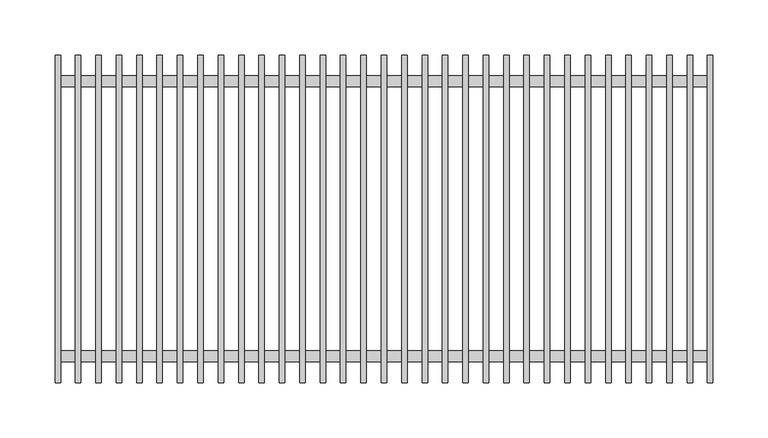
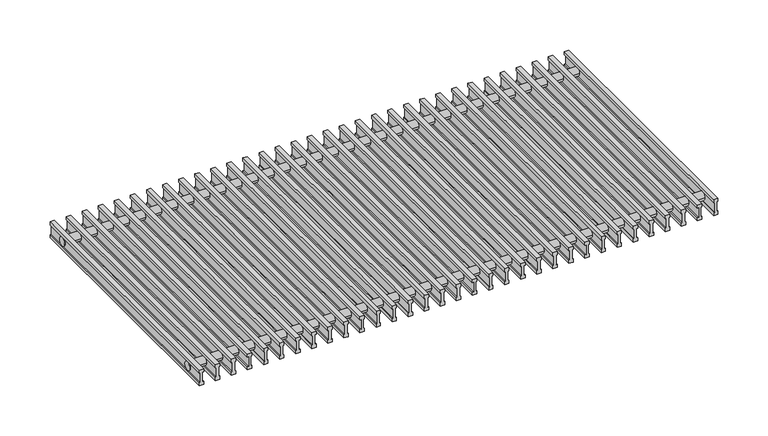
"""IFC4 building model written with IfcOpenShell, lengths in millimetres: proxy geometry, ♦ : РРА_Рулонная алюминиевая/ Белый RAL 9016."""

from ifc_helpers import new_model, si_unit, point, frame, frame_2d, origin, place, context, project, spatial, polyline, circle_curve, trimmed, segment, composite_curve, outline, extrude, source, transform, mapped, element, save


def mechanical_equipment_f10bf6e6(model_context):
    return source(origin(), model_context, "Body", "SweptSolid", [
        extrude(outline(polyline([(0.0, 580.28125), (0.0, 575.28125), (-3.86, 575.28125), (-3.86, 576.53125), (-15.44, 576.53125), (-15.44, 575.28125), (-19.3, 575.28125), (-19.3, 580.28125), (-15.44, 580.28125), (-15.44, 579.03125), (-3.86, 579.03125), (-3.86, 580.28125), (0.0, 580.28125)])), frame((0.0, -148.8, 0.0), z_axis=(0.0, 1.0, 0.0), x_axis=(0.0, 0.0, 1.0)), (0.0, 0.0, 1.0), 297.6),
        extrude(outline(polyline([(0.0, 561.7625), (0.0, 556.7625), (-3.86, 556.7625), (-3.86, 558.0125), (-15.44, 558.0125), (-15.44, 556.7625), (-19.3, 556.7625), (-19.3, 561.7625), (-15.44, 561.7625), (-15.44, 560.5125), (-3.86, 560.5125), (-3.86, 561.7625), (0.0, 561.7625)])), frame((0.0, -148.8, 0.0), z_axis=(0.0, 1.0, 0.0), x_axis=(0.0, 0.0, 1.0)), (0.0, 0.0, 1.0), 297.6),
        extrude(outline(polyline([(0.0, 543.24375), (0.0, 538.24375), (-3.86, 538.24375), (-3.86, 539.49375), (-15.44, 539.49375), (-15.44, 538.24375), (-19.3, 538.24375), (-19.3, 543.24375), (-15.44, 543.24375), (-15.44, 541.99375), (-3.86, 541.99375), (-3.86, 543.24375), (0.0, 543.24375)])), frame((0.0, -148.8, 0.0), z_axis=(0.0, 1.0, 0.0), x_axis=(0.0, 0.0, 1.0)), (0.0, 0.0, 1.0), 297.6),
        extrude(outline(polyline([(0.0, 524.725), (0.0, 519.725), (-3.86, 519.725), (-3.86, 520.975), (-15.44, 520.975), (-15.44, 519.725), (-19.3, 519.725), (-19.3, 524.725), (-15.44, 524.725), (-15.44, 523.475), (-3.86, 523.475), (-3.86, 524.725), (0.0, 524.725)])), frame((0.0, -148.8, 0.0), z_axis=(0.0, 1.0, 0.0), x_axis=(0.0, 0.0, 1.0)), (0.0, 0.0, 1.0), 297.6),
        extrude(outline(polyline([(0.0, 506.20625), (0.0, 501.20625), (-3.86, 501.20625), (-3.86, 502.45625), (-15.44, 502.45625), (-15.44, 501.20625), (-19.3, 501.20625), (-19.3, 506.20625), (-15.44, 506.20625), (-15.44, 504.95625), (-3.86, 504.95625), (-3.86, 506.20625), (0.0, 506.20625)])), frame((0.0, -148.8, 0.0), z_axis=(0.0, 1.0, 0.0), x_axis=(0.0, 0.0, 1.0)), (0.0, 0.0, 1.0), 297.6),
        extrude(outline(polyline([(0.0, 487.6875), (0.0, 482.6875), (-3.86, 482.6875), (-3.86, 483.9375), (-15.44, 483.9375), (-15.44, 482.6875), (-19.3, 482.6875), (-19.3, 487.6875), (-15.44, 487.6875), (-15.44, 486.4375), (-3.86, 486.4375), (-3.86, 487.6875), (0.0, 487.6875)])), frame((0.0, -148.8, 0.0), z_axis=(0.0, 1.0, 0.0), x_axis=(0.0, 0.0, 1.0)), (0.0, 0.0, 1.0), 297.6),
        extrude(outline(polyline([(0.0, 469.16875), (0.0, 464.16875), (-3.86, 464.16875), (-3.86, 465.41875), (-15.44, 465.41875), (-15.44, 464.16875), (-19.3, 464.16875), (-19.3, 469.16875), (-15.44, 469.16875), (-15.44, 467.91875), (-3.86, 467.91875), (-3.86, 469.16875), (0.0, 469.16875)])), frame((0.0, -148.8, 0.0), z_axis=(0.0, 1.0, 0.0), x_axis=(0.0, 0.0, 1.0)), (0.0, 0.0, 1.0), 297.6),
        extrude(outline(polyline([(0.0, 450.65), (0.0, 445.65), (-3.86, 445.65), (-3.86, 446.9), (-15.44, 446.9), (-15.44, 445.65), (-19.3, 445.65), (-19.3, 450.65), (-15.44, 450.65), (-15.44, 449.4), (-3.86, 449.4), (-3.86, 450.65), (0.0, 450.65)])), frame((0.0, -148.8, 0.0), z_axis=(0.0, 1.0, 0.0), x_axis=(0.0, 0.0, 1.0)), (0.0, 0.0, 1.0), 297.6),
        extrude(outline(polyline([(0.0, 432.13125), (0.0, 427.13125), (-3.86, 427.13125), (-3.86, 428.38125), (-15.44, 428.38125), (-15.44, 427.13125), (-19.3, 427.13125), (-19.3, 432.13125), (-15.44, 432.13125), (-15.44, 430.88125), (-3.86, 430.88125), (-3.86, 432.13125), (0.0, 432.13125)])), frame((0.0, -148.8, 0.0), z_axis=(0.0, 1.0, 0.0), x_axis=(0.0, 0.0, 1.0)), (0.0, 0.0, 1.0), 297.6),
        extrude(outline(polyline([(0.0, 413.6125), (0.0, 408.6125), (-3.86, 408.6125), (-3.86, 409.8625), (-15.44, 409.8625), (-15.44, 408.6125), (-19.3, 408.6125), (-19.3, 413.6125), (-15.44, 413.6125), (-15.44, 412.3625), (-3.86, 412.3625), (-3.86, 413.6125), (0.0, 413.6125)])), frame((0.0, -148.8, 0.0), z_axis=(0.0, 1.0, 0.0), x_axis=(0.0, 0.0, 1.0)), (0.0, 0.0, 1.0), 297.6),
        extrude(outline(polyline([(0.0, 395.09375), (0.0, 390.09375), (-3.86, 390.09375), (-3.86, 391.34375), (-15.44, 391.34375), (-15.44, 390.09375), (-19.3, 390.09375), (-19.3, 395.09375), (-15.44, 395.09375), (-15.44, 393.84375), (-3.86, 393.84375), (-3.86, 395.09375), (0.0, 395.09375)])), frame((0.0, -148.8, 0.0), z_axis=(0.0, 1.0, 0.0), x_axis=(0.0, 0.0, 1.0)), (0.0, 0.0, 1.0), 297.6),
        extrude(outline(polyline([(0.0, 376.575), (0.0, 371.575), (-3.86, 371.575), (-3.86, 372.825), (-15.44, 372.825), (-15.44, 371.575), (-19.3, 371.575), (-19.3, 376.575), (-15.44, 376.575), (-15.44, 375.325), (-3.86, 375.325), (-3.86, 376.575), (0.0, 376.575)])), frame((0.0, -148.8, 0.0), z_axis=(0.0, 1.0, 0.0), x_axis=(0.0, 0.0, 1.0)), (0.0, 0.0, 1.0), 297.6),
        extrude(outline(polyline([(0.0, 358.05625), (0.0, 353.05625), (-3.86, 353.05625), (-3.86, 354.30625), (-15.44, 354.30625), (-15.44, 353.05625), (-19.3, 353.05625), (-19.3, 358.05625), (-15.44, 358.05625), (-15.44, 356.80625), (-3.86, 356.80625), (-3.86, 358.05625), (0.0, 358.05625)])), frame((0.0, -148.8, 0.0), z_axis=(0.0, 1.0, 0.0), x_axis=(0.0, 0.0, 1.0)), (0.0, 0.0, 1.0), 297.6),
        extrude(outline(polyline([(0.0, 339.5375), (0.0, 334.5375), (-3.86, 334.5375), (-3.86, 335.7875), (-15.44, 335.7875), (-15.44, 334.5375), (-19.3, 334.5375), (-19.3, 339.5375), (-15.44, 339.5375), (-15.44, 338.2875), (-3.86, 338.2875), (-3.86, 339.5375), (0.0, 339.5375)])), frame((0.0, -148.8, 0.0), z_axis=(0.0, 1.0, 0.0), x_axis=(0.0, 0.0, 1.0)), (0.0, 0.0, 1.0), 297.6),
        extrude(outline(polyline([(0.0, 321.01875), (0.0, 316.01875), (-3.86, 316.01875), (-3.86, 317.26875), (-15.44, 317.26875), (-15.44, 316.01875), (-19.3, 316.01875), (-19.3, 321.01875), (-15.44, 321.01875), (-15.44, 319.76875), (-3.86, 319.76875), (-3.86, 321.01875), (0.0, 321.01875)])), frame((0.0, -148.8, 0.0), z_axis=(0.0, 1.0, 0.0), x_axis=(0.0, 0.0, 1.0)), (0.0, 0.0, 1.0), 297.6),
        extrude(outline(polyline([(0.0, 302.5), (0.0, 297.5), (-3.86, 297.5), (-3.86, 298.75), (-15.44, 298.75), (-15.44, 297.5), (-19.3, 297.5), (-19.3, 302.5), (-15.44, 302.5), (-15.44, 301.25), (-3.86, 301.25), (-3.86, 302.5), (0.0, 302.5)])), frame((0.0, -148.8, 0.0), z_axis=(0.0, 1.0, 0.0), x_axis=(0.0, 0.0, 1.0)), (0.0, 0.0, 1.0), 297.6),
        extrude(outline(polyline([(0.0, 283.98125), (0.0, 278.98125), (-3.86, 278.98125), (-3.86, 280.23125), (-15.44, 280.23125), (-15.44, 278.98125), (-19.3, 278.98125), (-19.3, 283.98125), (-15.44, 283.98125), (-15.44, 282.73125), (-3.86, 282.73125), (-3.86, 283.98125), (0.0, 283.98125)])), frame((0.0, -148.8, 0.0), z_axis=(0.0, 1.0, 0.0), x_axis=(0.0, 0.0, 1.0)), (0.0, 0.0, 1.0), 297.6),
        extrude(outline(polyline([(0.0, 265.4625), (0.0, 260.4625), (-3.86, 260.4625), (-3.86, 261.7125), (-15.44, 261.7125), (-15.44, 260.4625), (-19.3, 260.4625), (-19.3, 265.4625), (-15.44, 265.4625), (-15.44, 264.2125), (-3.86, 264.2125), (-3.86, 265.4625), (0.0, 265.4625)])), frame((0.0, -148.8, 0.0), z_axis=(0.0, 1.0, 0.0), x_axis=(0.0, 0.0, 1.0)), (0.0, 0.0, 1.0), 297.6),
        extrude(outline(polyline([(0.0, 246.94375), (0.0, 241.94375), (-3.86, 241.94375), (-3.86, 243.19375), (-15.44, 243.19375), (-15.44, 241.94375), (-19.3, 241.94375), (-19.3, 246.94375), (-15.44, 246.94375), (-15.44, 245.69375), (-3.86, 245.69375), (-3.86, 246.94375), (0.0, 246.94375)])), frame((0.0, -148.8, 0.0), z_axis=(0.0, 1.0, 0.0), x_axis=(0.0, 0.0, 1.0)), (0.0, 0.0, 1.0), 297.6),
        extrude(outline(polyline([(0.0, 228.425), (0.0, 223.425), (-3.86, 223.425), (-3.86, 224.675), (-15.44, 224.675), (-15.44, 223.425), (-19.3, 223.425), (-19.3, 228.425), (-15.44, 228.425), (-15.44, 227.175), (-3.86, 227.175), (-3.86, 228.425), (0.0, 228.425)])), frame((0.0, -148.8, 0.0), z_axis=(0.0, 1.0, 0.0), x_axis=(0.0, 0.0, 1.0)), (0.0, 0.0, 1.0), 297.6),
        extrude(outline(polyline([(0.0, 209.90625), (0.0, 204.90625), (-3.86, 204.90625), (-3.86, 206.15625), (-15.44, 206.15625), (-15.44, 204.90625), (-19.3, 204.90625), (-19.3, 209.90625), (-15.44, 209.90625), (-15.44, 208.65625), (-3.86, 208.65625), (-3.86, 209.90625), (0.0, 209.90625)])), frame((0.0, -148.8, 0.0), z_axis=(0.0, 1.0, 0.0), x_axis=(0.0, 0.0, 1.0)), (0.0, 0.0, 1.0), 297.6),
        extrude(outline(polyline([(0.0, 191.3875), (0.0, 186.3875), (-3.86, 186.3875), (-3.86, 187.6375), (-15.44, 187.6375), (-15.44, 186.3875), (-19.3, 186.3875), (-19.3, 191.3875), (-15.44, 191.3875), (-15.44, 190.1375), (-3.86, 190.1375), (-3.86, 191.3875), (0.0, 191.3875)])), frame((0.0, -148.8, 0.0), z_axis=(0.0, 1.0, 0.0), x_axis=(0.0, 0.0, 1.0)), (0.0, 0.0, 1.0), 297.6),
        extrude(outline(polyline([(0.0, 172.86875), (0.0, 167.86875), (-3.86, 167.86875), (-3.86, 169.11875), (-15.44, 169.11875), (-15.44, 167.86875), (-19.3, 167.86875), (-19.3, 172.86875), (-15.44, 172.86875), (-15.44, 171.61875), (-3.86, 171.61875), (-3.86, 172.86875), (0.0, 172.86875)])), frame((0.0, -148.8, 0.0), z_axis=(0.0, 1.0, 0.0), x_axis=(0.0, 0.0, 1.0)), (0.0, 0.0, 1.0), 297.6),
        extrude(outline(polyline([(0.0, 154.35), (0.0, 149.35), (-3.86, 149.35), (-3.86, 150.6), (-15.44, 150.6), (-15.44, 149.35), (-19.3, 149.35), (-19.3, 154.35), (-15.44, 154.35), (-15.44, 153.1), (-3.86, 153.1), (-3.86, 154.35), (0.0, 154.35)])), frame((0.0, -148.8, 0.0), z_axis=(0.0, 1.0, 0.0), x_axis=(0.0, 0.0, 1.0)), (0.0, 0.0, 1.0), 297.6),
        extrude(outline(polyline([(0.0, 135.83125), (0.0, 130.83125), (-3.86, 130.83125), (-3.86, 132.08125), (-15.44, 132.08125), (-15.44, 130.83125), (-19.3, 130.83125), (-19.3, 135.83125), (-15.44, 135.83125), (-15.44, 134.58125), (-3.86, 134.58125), (-3.86, 135.83125), (0.0, 135.83125)])), frame((0.0, -148.8, 0.0), z_axis=(0.0, 1.0, 0.0), x_axis=(0.0, 0.0, 1.0)), (0.0, 0.0, 1.0), 297.6),
        extrude(outline(polyline([(0.0, 117.3125), (0.0, 112.3125), (-3.86, 112.3125), (-3.86, 113.5625), (-15.44, 113.5625), (-15.44, 112.3125), (-19.3, 112.3125), (-19.3, 117.3125), (-15.44, 117.3125), (-15.44, 116.0625), (-3.86, 116.0625), (-3.86, 117.3125), (0.0, 117.3125)])), frame((0.0, -148.8, 0.0), z_axis=(0.0, 1.0, 0.0), x_axis=(0.0, 0.0, 1.0)), (0.0, 0.0, 1.0), 297.6),
        extrude(outline(polyline([(0.0, 98.79375), (0.0, 93.79375), (-3.86, 93.79375), (-3.86, 95.04375), (-15.44, 95.04375), (-15.44, 93.79375), (-19.3, 93.79375), (-19.3, 98.79375), (-15.44, 98.79375), (-15.44, 97.54375), (-3.86, 97.54375), (-3.86, 98.79375), (0.0, 98.79375)])), frame((0.0, -148.8, 0.0), z_axis=(0.0, 1.0, 0.0), x_axis=(0.0, 0.0, 1.0)), (0.0, 0.0, 1.0), 297.6),
        extrude(outline(polyline([(0.0, 80.275), (0.0, 75.275), (-3.86, 75.275), (-3.86, 76.525), (-15.44, 76.525), (-15.44, 75.275), (-19.3, 75.275), (-19.3, 80.275), (-15.44, 80.275), (-15.44, 79.025), (-3.86, 79.025), (-3.86, 80.275), (0.0, 80.275)])), frame((0.0, -148.8, 0.0), z_axis=(0.0, 1.0, 0.0), x_axis=(0.0, 0.0, 1.0)), (0.0, 0.0, 1.0), 297.6),
        extrude(outline(polyline([(0.0, 61.75625), (0.0, 56.75625), (-3.86, 56.75625), (-3.86, 58.00625), (-15.44, 58.00625), (-15.44, 56.75625), (-19.3, 56.75625), (-19.3, 61.75625), (-15.44, 61.75625), (-15.44, 60.50625), (-3.86, 60.50625), (-3.86, 61.75625), (0.0, 61.75625)])), frame((0.0, -148.8, 0.0), z_axis=(0.0, 1.0, 0.0), x_axis=(0.0, 0.0, 1.0)), (0.0, 0.0, 1.0), 297.6),
        extrude(outline(polyline([(0.0, 43.2375), (0.0, 38.2375), (-3.86, 38.2375), (-3.86, 39.4875), (-15.44, 39.4875), (-15.44, 38.2375), (-19.3, 38.2375), (-19.3, 43.2375), (-15.44, 43.2375), (-15.44, 41.9875), (-3.86, 41.9875), (-3.86, 43.2375), (0.0, 43.2375)])), frame((0.0, -148.8, 0.0), z_axis=(0.0, 1.0, 0.0), x_axis=(0.0, 0.0, 1.0)), (0.0, 0.0, 1.0), 297.6),
        extrude(outline(polyline([(0.0, 24.71875), (0.0, 19.71875), (-3.86, 19.71875), (-3.86, 20.96875), (-15.44, 20.96875), (-15.44, 19.71875), (-19.3, 19.71875), (-19.3, 24.71875), (-15.44, 24.71875), (-15.44, 23.46875), (-3.86, 23.46875), (-3.86, 24.71875), (0.0, 24.71875)])), frame((0.0, -148.8, 0.0), z_axis=(0.0, 1.0, 0.0), x_axis=(0.0, 0.0, 1.0)), (0.0, 0.0, 1.0), 297.6),
        extrude(outline(polyline([(0.0, 598.8), (0.0, 593.8), (-3.86, 593.8), (-3.86, 595.05), (-15.44, 595.05), (-15.44, 593.8), (-19.3, 593.8), (-19.3, 598.8), (-15.44, 598.8), (-15.44, 597.55), (-3.86, 597.55), (-3.86, 598.8), (0.0, 598.8)])), frame((0.0, -148.8, 0.0), z_axis=(0.0, 1.0, 0.0), x_axis=(0.0, 0.0, 1.0)), (0.0, 0.0, 1.0), 297.6),
        extrude(outline(polyline([(0.0, 6.2), (0.0, 1.2), (-3.86, 1.2), (-3.86, 2.45), (-15.44, 2.45), (-15.44, 1.2), (-19.3, 1.2), (-19.3, 6.2), (-15.44, 6.2), (-15.44, 4.95), (-3.86, 4.95), (-3.86, 6.2), (0.0, 6.2)])), frame((0.0, -148.8, 0.0), z_axis=(0.0, 1.0, 0.0), x_axis=(0.0, 0.0, 1.0)), (0.0, 0.0, 1.0), 297.6),
        extrude(outline(composite_curve([segment(trimmed(circle_curve(frame_2d((125.0, -9.64)), 5.0), [point((120.0, -9.64))], [point((130.0, -9.64))], False, "CARTESIAN"), True, "CONTINUOUS"), segment(trimmed(circle_curve(frame_2d((125.0, -9.64)), 5.0), [point((130.0, -9.64))], [point((120.0, -9.64))], False, "CARTESIAN"), True, "CONTINUOUS")], self_intersect=False)), frame((1.2, 0.0, 0.0), z_axis=(1.0, 0.0, 0.0), x_axis=(0.0, 1.0, 0.0)), (0.0, 0.0, 1.0), 597.6),
        extrude(outline(composite_curve([segment(trimmed(circle_curve(frame_2d((-125.0, -9.64)), 5.0), [point((-130.0, -9.64))], [point((-120.0, -9.64))], False, "CARTESIAN"), True, "CONTINUOUS"), segment(trimmed(circle_curve(frame_2d((-125.0, -9.64)), 5.0), [point((-120.0, -9.64))], [point((-130.0, -9.64))], False, "CARTESIAN"), True, "CONTINUOUS")], self_intersect=False)), frame((1.2, 0.0, 0.0), z_axis=(1.0, 0.0, 0.0), x_axis=(0.0, 1.0, 0.0)), (0.0, 0.0, 1.0), 597.6),
    ])


if __name__ == "__main__":
    model = new_model("IFC4")
    model_context = context("Model", 3, world=origin())
    ifc_project = project(units=[si_unit("LENGTHUNIT", "METRE", prefix="MILLI")], contexts=[model_context])
    site = spatial("IfcSite", under=ifc_project)
    building = spatial("IfcBuilding", under=site)
    placement = place(None, origin())
    mechanical_equipment_shape = mechanical_equipment_f10bf6e6(model_context)
    element("IfcBuildingElementProxy", 1, Name="♦ : РРА_Рулонная алюминиевая/ Белый RAL 9016", ObjectType="♦ : РРА_Рулонная алюминиевая/ Белый RAL 9016", at=placement, inside=building, context=model_context, shape_type="MappedRepresentation", body=[
        mapped(mechanical_equipment_shape, transform((0.0, 0.0, 0.0), x_axis=(1.0, 0.0, 0.0), y_axis=(0.0, 1.0, 0.0), z_axis=(0.0, 0.0, 1.0))),
    ])
    save(model, "model.ifc")
